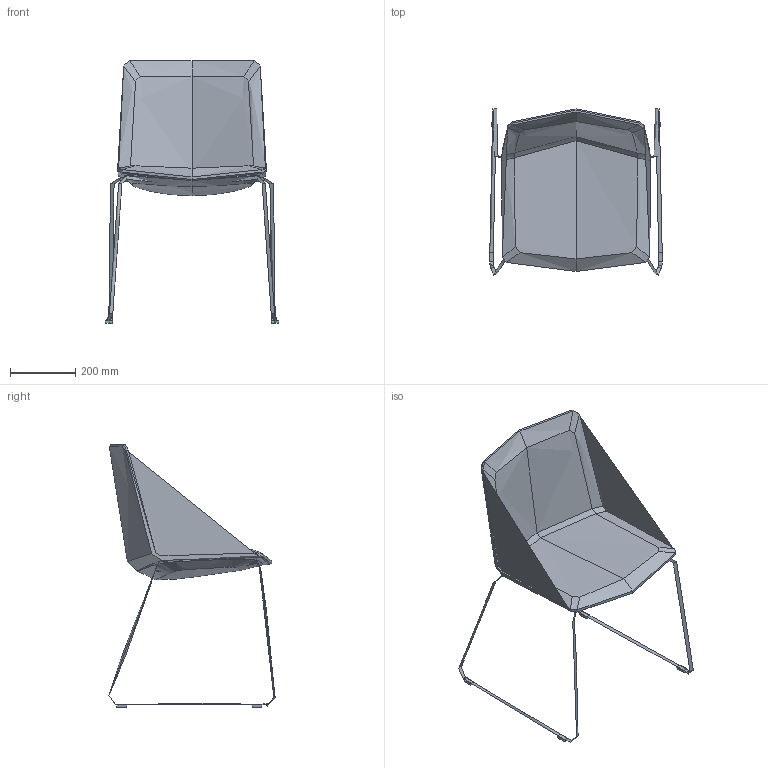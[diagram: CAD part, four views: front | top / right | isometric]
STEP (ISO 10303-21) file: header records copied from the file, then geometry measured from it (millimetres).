
FILE_DESCRIPTION(/* description */ (''),/* implementation_level */ '2;1');
FILE_NAME(/* name */ 'SKYFRE~1',/* time_stamp */ '2016-02-19T11:13:15+01:00',/* author */ (''),/* organization */ (''),/* preprocessor_version */ 'ST-DEVELOPER v15',/* originating_system */ '',/* authorisation */ '');
FILE_SCHEMA (('CONFIG_CONTROL_DESIGN'));
Length unit declared in the file: millimetre
Products named in the file (1): Document
Bounding box: 533.75 x 510.54 x 807.23 mm (x, y, z)
Volume: 9822124.5 mm3; surface area: 1049034.4 mm2
Topology: 11 solids, 12 shells, 158 faces, 342 edges, 200 vertices
Faces by surface type: bspline 124, plane 34
Entity records: 16262 total; most frequent: CARTESIAN_POINT 14136, ORIENTED_EDGE 656, EDGE_CURVE 339, VERTEX_POINT 200, B_SPLINE_CURVE_WITH_KNOTS 169, ADVANCED_FACE 158, FACE_OUTER_BOUND 158, EDGE_LOOP 158
